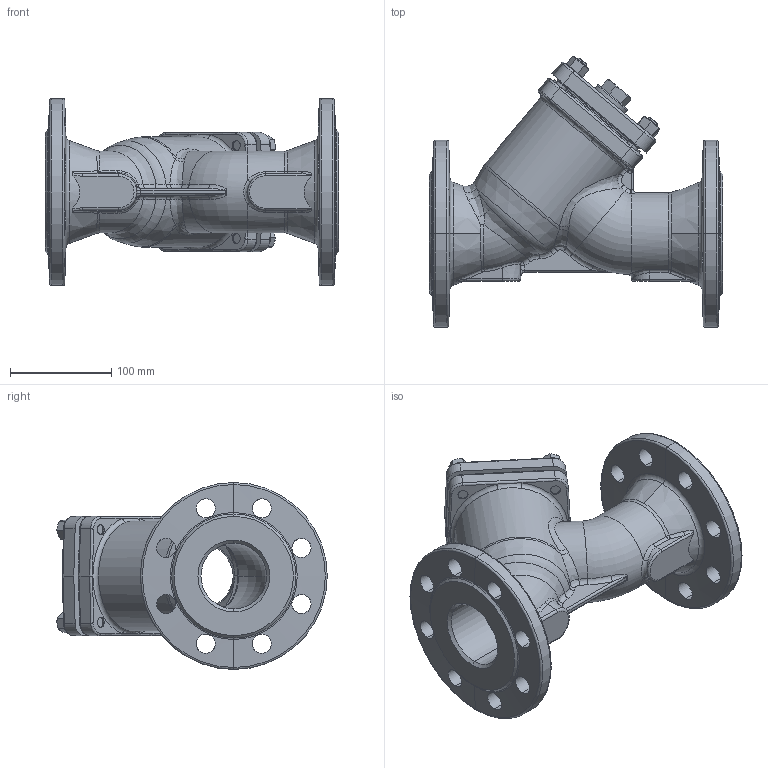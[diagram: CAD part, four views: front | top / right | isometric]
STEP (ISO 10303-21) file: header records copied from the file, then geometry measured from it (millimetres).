
FILE_DESCRIPTION (( 'STEP AP203' ), '1' );
FILE_NAME ('821_DN65_PN25.STEP', '2010-01-12T13:10:35', ( 'Piotr Zlobecki' ), ( 'ZETKAMA SA' ), 'SwSTEP 2.0', 'SolidWorks 2010', '' );
FILE_SCHEMA (( 'CONFIG_CONTROL_DESIGN' ));
Length unit declared in the file: millimetre
Products named in the file (1): 821_DN65_PN25
Bounding box: 290 x 267.71 x 185 mm (x, y, z)
Volume: 1980733.4 mm3; surface area: 359317.4 mm2
Topology: 11 solids, 11 shells, 643 faces, 1451 edges, 838 vertices
Faces by surface type: cylinder 190, cone 128, plane 122, bspline 103, torus 98, sphere 2
Entity records: 48526 total; most frequent: CARTESIAN_POINT 34658, ORIENTED_EDGE 2902, DIRECTION 2811, EDGE_CURVE 1451, AXIS2_PLACEMENT_3D 1200, VERTEX_POINT 838, EDGE_LOOP 713, CIRCLE 659
